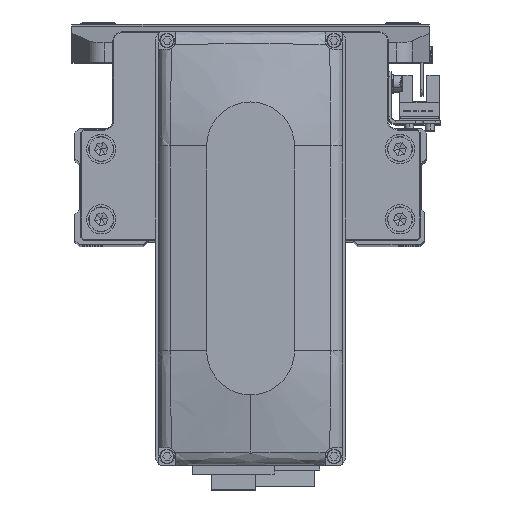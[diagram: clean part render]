
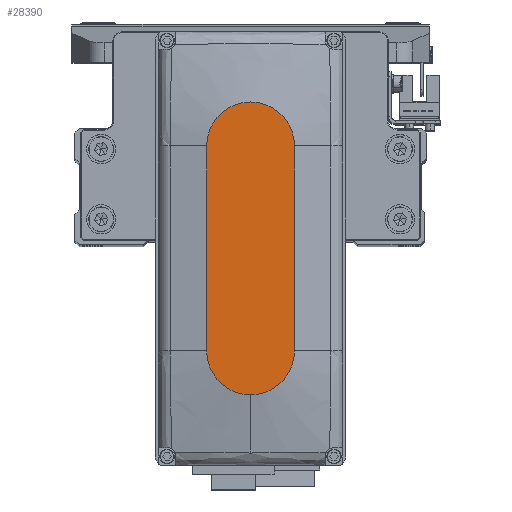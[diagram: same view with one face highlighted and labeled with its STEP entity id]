
A CAD part, top view. The second image highlights one B-rep face of the part: STEP entity #28390.
In plain terms, the highlighted planar face has unit normal (0, 0, 1).
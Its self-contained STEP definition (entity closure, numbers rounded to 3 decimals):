
#1296 = AXIS2_PLACEMENT_3D ( 'NONE', #23828, #37112, #7273 ) ;
#3189 = PLANE ( 'NONE',  #25433 ) ;
#5106 = EDGE_CURVE ( 'NONE', #23527, #16119, #28626, .T. ) ;
#7040 = LINE ( 'NONE', #20331, #33379 ) ;
#7273 = DIRECTION ( 'NONE',  ( 1., 0., 0. ) ) ;
#8267 = CARTESIAN_POINT ( 'NONE',  ( 35., 0., 35. ) ) ;
#8764 = EDGE_CURVE ( 'NONE', #17325, #25849, #42695, .T. ) ;
#9019 = ORIENTED_EDGE ( 'NONE', *, *, #18323, .T. ) ;
#9849 = AXIS2_PLACEMENT_3D ( 'NONE', #8267, #21552, #34831 ) ;
#11449 = CARTESIAN_POINT ( 'NONE',  ( -35., 0., 35. ) ) ;
#12861 = CIRCLE ( 'NONE', #37195, 15. ) ;
#12868 = CARTESIAN_POINT ( 'NONE',  ( -35., -15., 35. ) ) ;
#15009 = ORIENTED_EDGE ( 'NONE', *, *, #5106, .T. ) ;
#16119 = VERTEX_POINT ( 'NONE', #38127 ) ;
#16467 = CARTESIAN_POINT ( 'NONE',  ( 0., 0., 35. ) ) ;
#17325 = VERTEX_POINT ( 'NONE', #32928 ) ;
#18323 = EDGE_CURVE ( 'NONE', #25849, #23527, #20090, .T. ) ;
#20090 = CIRCLE ( 'NONE', #1296, 15. ) ;
#20331 = CARTESIAN_POINT ( 'NONE',  ( -35., 15., 35. ) ) ;
#21552 = DIRECTION ( 'NONE',  ( 0., 0., 1. ) ) ;
#22684 = ORIENTED_EDGE ( 'NONE', *, *, #25690, .T. ) ;
#23527 = VERTEX_POINT ( 'NONE', #38940 ) ;
#23828 = CARTESIAN_POINT ( 'NONE',  ( 35., 0., 35. ) ) ;
#24739 = DIRECTION ( 'NONE',  ( 0., 0., 1. ) ) ;
#25433 = AXIS2_PLACEMENT_3D ( 'NONE', #16467, #29759, #43048 ) ;
#25690 = EDGE_CURVE ( 'NONE', #16119, #42078, #7040, .T. ) ;
#25849 = VERTEX_POINT ( 'NONE', #37952 ) ;
#26151 = DIRECTION ( 'NONE',  ( 1., 0., 0. ) ) ;
#26283 = ORIENTED_EDGE ( 'NONE', *, *, #8764, .T. ) ;
#27419 = VECTOR ( 'NONE', #26151, 1000. ) ;
#27670 = EDGE_LOOP ( 'NONE', ( #22684, #30666, #26283, #9019, #15009 ) ) ;
#28390 = ADVANCED_FACE ( 'NONE', ( #33032 ), #3189, .T. ) ;
#28626 = CIRCLE ( 'NONE', #9849, 15. ) ;
#29759 = DIRECTION ( 'NONE',  ( 0., 0., 1. ) ) ;
#30666 = ORIENTED_EDGE ( 'NONE', *, *, #34952, .T. ) ;
#32928 = CARTESIAN_POINT ( 'NONE',  ( -35., -15., 35. ) ) ;
#33032 = FACE_OUTER_BOUND ( 'NONE', #27670, .T. ) ;
#33379 = VECTOR ( 'NONE', #33603, 1000. ) ;
#33603 = DIRECTION ( 'NONE',  ( -1., 0., 0. ) ) ;
#34831 = DIRECTION ( 'NONE',  ( 1., 0., 0. ) ) ;
#34952 = EDGE_CURVE ( 'NONE', #42078, #17325, #12861, .T. ) ;
#37112 = DIRECTION ( 'NONE',  ( 0., 0., 1. ) ) ;
#37195 = AXIS2_PLACEMENT_3D ( 'NONE', #11449, #24739, #38017 ) ;
#37952 = CARTESIAN_POINT ( 'NONE',  ( 35., -15., 35. ) ) ;
#38017 = DIRECTION ( 'NONE',  ( 1., 0., 0. ) ) ;
#38127 = CARTESIAN_POINT ( 'NONE',  ( 35., 15., 35. ) ) ;
#38940 = CARTESIAN_POINT ( 'NONE',  ( 50., 0., 35. ) ) ;
#42078 = VERTEX_POINT ( 'NONE', #42180 ) ;
#42180 = CARTESIAN_POINT ( 'NONE',  ( -35., 15., 35. ) ) ;
#42695 = LINE ( 'NONE', #12868, #27419 ) ;
#43048 = DIRECTION ( 'NONE',  ( 1., 0., 0. ) ) ;
